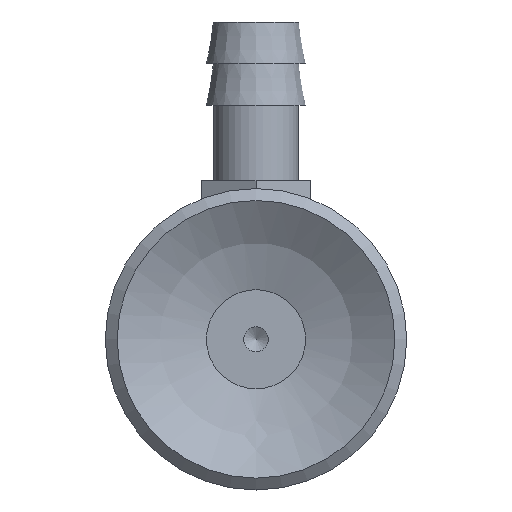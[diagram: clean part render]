
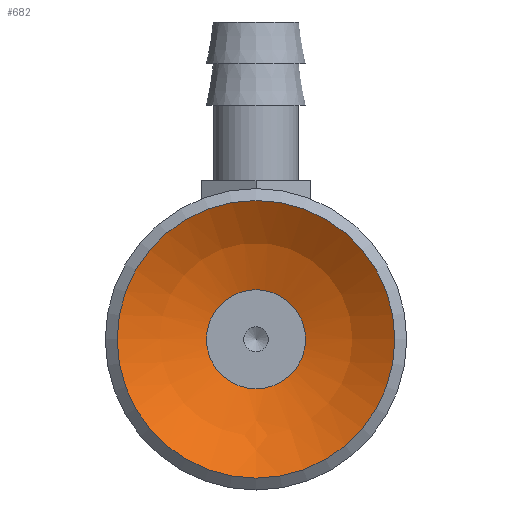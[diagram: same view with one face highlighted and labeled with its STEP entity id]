
A CAD part, front view. The second image highlights one B-rep face of the part: STEP entity #682.
In plain terms, the highlighted spherical face has radius 11.5 mm.
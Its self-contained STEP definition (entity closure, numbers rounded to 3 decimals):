
#682=ADVANCED_FACE('',(#1166,#1167),#1168,.F.);
#1166=FACE_OUTER_BOUND('',#1732,.T.);
#1167=FACE_OUTER_BOUND('',#1733,.T.);
#1168=SPHERICAL_SURFACE('',#1734,11.5);
#1732=EDGE_LOOP('',(#3093));
#1733=EDGE_LOOP('',(#3094));
#1734=AXIS2_PLACEMENT_3D('',#3095,#3096,#3097);
#3093=ORIENTED_EDGE('',*,*,#3862,.T.);
#3094=ORIENTED_EDGE('',*,*,#3802,.F.);
#3095=CARTESIAN_POINT('',(0.001,9.494,-22.735));
#3096=DIRECTION('',(0.0,0.,-1.0));
#3097=DIRECTION('',(1.0,0.0,0.0));
#3802=EDGE_CURVE('',#4498,#4498,#4499,.T.);
#3862=EDGE_CURVE('',#4593,#4593,#4594,.T.);
#4498=VERTEX_POINT('',#6303);
#4499=CIRCLE('',#6304,2.5);
#4593=VERTEX_POINT('',#6398);
#4594=CIRCLE('',#6399,7.0);
#6303=CARTESIAN_POINT('',(0.001,11.994,-11.51));
#6304=AXIS2_PLACEMENT_3D('',#7039,#7040,#7041);
#6398=CARTESIAN_POINT('',(0.001,16.494,-13.611));
#6399=AXIS2_PLACEMENT_3D('',#7219,#7220,#7221);
#7039=CARTESIAN_POINT('',(0.001,9.494,-11.51));
#7040=DIRECTION('',(0.0,0.,-1.0));
#7041=DIRECTION('',(0.0,1.0,0.));
#7219=CARTESIAN_POINT('',(0.001,9.494,-13.611));
#7220=DIRECTION('',(0.0,0.,-1.0));
#7221=DIRECTION('',(0.0,1.0,0.));
